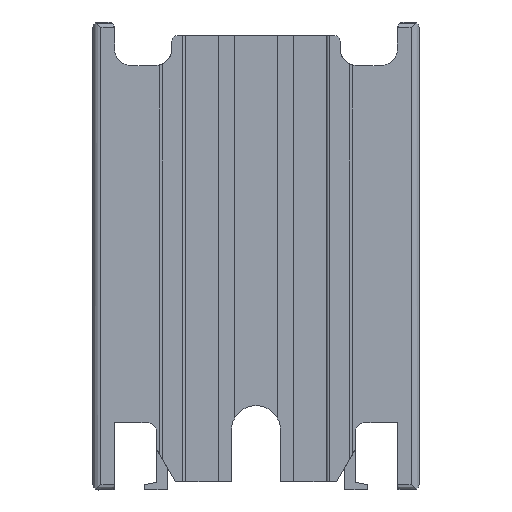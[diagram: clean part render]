
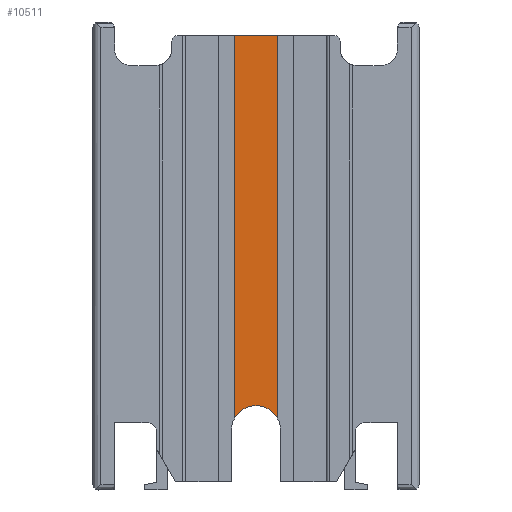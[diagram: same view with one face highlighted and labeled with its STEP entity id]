
A CAD part, left-side view. The second image highlights one B-rep face of the part: STEP entity #10511.
In plain terms, the highlighted planar face has unit normal (-1, 0, 0).
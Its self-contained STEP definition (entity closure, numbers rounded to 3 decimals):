
#322 = CARTESIAN_POINT ( 'NONE',  ( 4480.3, -6460.4, 454.146 ) ) ;
#462 = AXIS2_PLACEMENT_3D ( 'NONE', #7780, #11270, #1478 ) ;
#980 = DIRECTION ( 'NONE',  ( 0., 0., -1. ) ) ;
#1109 = ORIENTED_EDGE ( 'NONE', *, *, #4480, .T. ) ;
#1260 = ORIENTED_EDGE ( 'NONE', *, *, #3396, .F. ) ;
#1263 = ORIENTED_EDGE ( 'NONE', *, *, #9695, .F. ) ;
#1348 = CARTESIAN_POINT ( 'NONE',  ( 4480.3, -6452.6, 383.891 ) ) ;
#1478 = DIRECTION ( 'NONE',  ( 0., 0., 1. ) ) ;
#1530 = VERTEX_POINT ( 'NONE', #2580 ) ;
#2580 = CARTESIAN_POINT ( 'NONE',  ( 4480.3, -6460.4, 383.891 ) ) ;
#2908 = CIRCLE ( 'NONE', #462, 4.5 ) ;
#3396 = EDGE_CURVE ( 'NONE', #6062, #6552, #9141, .T. ) ;
#3405 = LINE ( 'NONE', #11480, #6142 ) ;
#3567 = CARTESIAN_POINT ( 'NONE',  ( 4480.3, -6452.6, 456.646 ) ) ;
#3903 = DIRECTION ( 'NONE',  ( -1., 0., 0. ) ) ;
#3993 = EDGE_CURVE ( 'NONE', #4923, #8494, #3405, .T. ) ;
#4412 = ORIENTED_EDGE ( 'NONE', *, *, #3993, .F. ) ;
#4480 = EDGE_CURVE ( 'NONE', #4923, #6552, #11646, .T. ) ;
#4661 = CARTESIAN_POINT ( 'NONE',  ( 4480.3, -6452.6, 454.146 ) ) ;
#4923 = VERTEX_POINT ( 'NONE', #4661 ) ;
#5166 = DIRECTION ( 'NONE',  ( -1., 0., 0. ) ) ;
#5618 = EDGE_LOOP ( 'NONE', ( #1263, #10157, #4412, #1109, #1260 ) ) ;
#6036 = DIRECTION ( 'NONE',  ( 0., 0., 1. ) ) ;
#6062 = VERTEX_POINT ( 'NONE', #8318 ) ;
#6142 = VECTOR ( 'NONE', #6176, 1000. ) ;
#6176 = DIRECTION ( 'NONE',  ( 0., -1., 0. ) ) ;
#6552 = VERTEX_POINT ( 'NONE', #1348 ) ;
#7298 = LINE ( 'NONE', #9056, #7433 ) ;
#7433 = VECTOR ( 'NONE', #980, 1000. ) ;
#7554 = CARTESIAN_POINT ( 'NONE',  ( 4480.3, -6456.5, 381.646 ) ) ;
#7780 = CARTESIAN_POINT ( 'NONE',  ( 4480.3, -6456.5, 381.646 ) ) ;
#7817 = AXIS2_PLACEMENT_3D ( 'NONE', #8082, #5166, #6036 ) ;
#7871 = DIRECTION ( 'NONE',  ( 0., 0., -1. ) ) ;
#8082 = CARTESIAN_POINT ( 'NONE',  ( 4480.3, -6428.85, 456.646 ) ) ;
#8318 = CARTESIAN_POINT ( 'NONE',  ( 4480.3, -6456.5, 386.146 ) ) ;
#8494 = VERTEX_POINT ( 'NONE', #322 ) ;
#9033 = PLANE ( 'NONE',  #7817 ) ;
#9056 = CARTESIAN_POINT ( 'NONE',  ( 4480.3, -6460.4, 456.646 ) ) ;
#9141 = CIRCLE ( 'NONE', #11404, 4.5 ) ;
#9389 = DIRECTION ( 'NONE',  ( 0., 0., 1. ) ) ;
#9695 = EDGE_CURVE ( 'NONE', #1530, #6062, #2908, .T. ) ;
#10027 = FACE_OUTER_BOUND ( 'NONE', #5618, .T. ) ;
#10157 = ORIENTED_EDGE ( 'NONE', *, *, #10198, .F. ) ;
#10198 = EDGE_CURVE ( 'NONE', #8494, #1530, #7298, .T. ) ;
#10278 = VECTOR ( 'NONE', #7871, 1000. ) ;
#10511 = ADVANCED_FACE ( 'NONE', ( #10027 ), #9033, .T. ) ;
#11270 = DIRECTION ( 'NONE',  ( -1., 0., 0. ) ) ;
#11404 = AXIS2_PLACEMENT_3D ( 'NONE', #7554, #3903, #9389 ) ;
#11480 = CARTESIAN_POINT ( 'NONE',  ( 4480.3, -6428.85, 454.146 ) ) ;
#11646 = LINE ( 'NONE', #3567, #10278 ) ;
